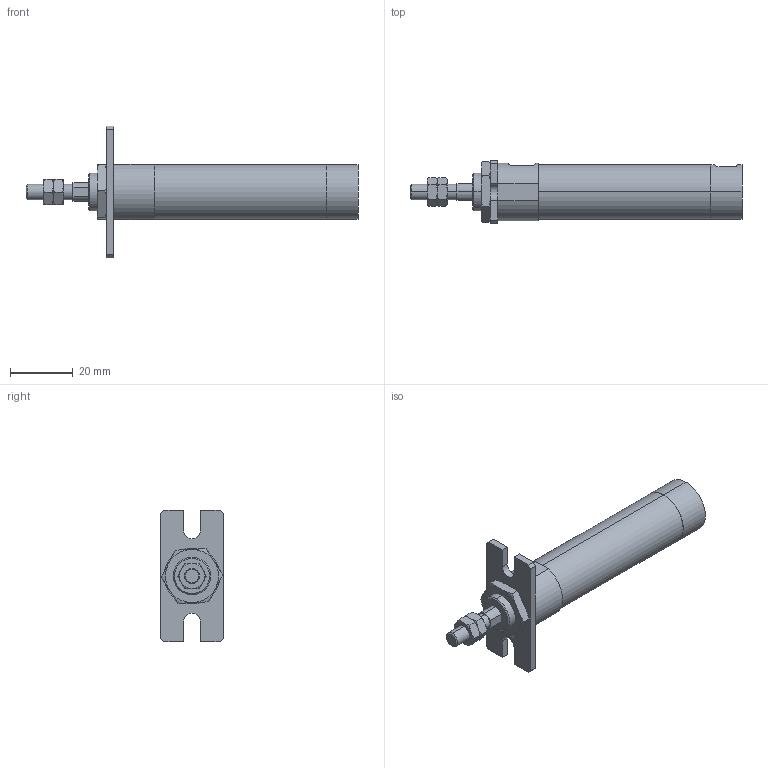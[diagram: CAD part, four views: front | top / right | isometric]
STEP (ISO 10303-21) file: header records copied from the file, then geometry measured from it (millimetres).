
FILE_DESCRIPTION (( 'STEP AP203' ), '1' );
FILE_NAME ('ZGU2-16-30-A.STEP', '2016-03-31T00:58:31', ( '' ), ( '' ), 'SwSTEP 2.0', 'SolidWorks 2014', '' );
FILE_SCHEMA (( 'CONFIG_CONTROL_DESIGN' ));
Length unit declared in the file: millimetre
Products named in the file (5): ZGU2-16-30-A; Z-16-A; ZGU2-16-30
Assembly tree (5 placements, depth 2):
  ZGU2-16-30-A
    ZGU2-16-30
    (unnamed)  x2
    (unnamed)
    Z-16-A
Bounding box: 106 x 20 x 42 mm (x, y, z)
Volume: 21871.5 mm3; surface area: 8164.6 mm2
Topology: 5 solids, 5 shells, 129 faces, 292 edges, 178 vertices
Faces by surface type: plane 57, torus 36, cylinder 28, cone 8
Entity records: 3825 total; most frequent: CARTESIAN_POINT 917, DIRECTION 498, ORIENTED_EDGE 480, EDGE_CURVE 240, AXIS2_PLACEMENT_3D 195, VERTEX_POINT 150, EDGE_LOOP 122, LINE 108
